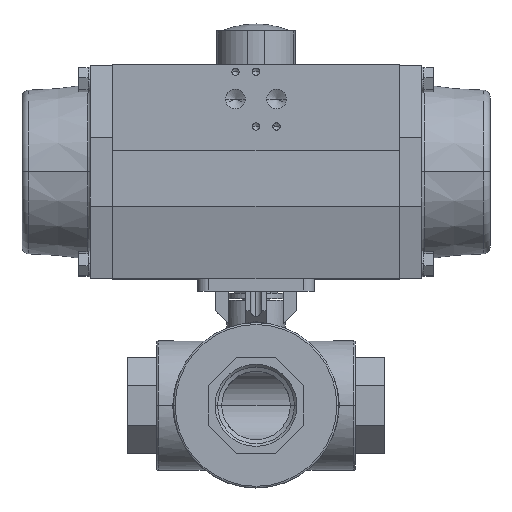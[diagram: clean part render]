
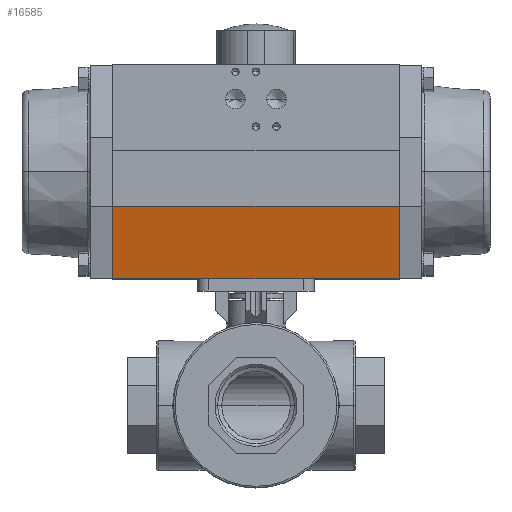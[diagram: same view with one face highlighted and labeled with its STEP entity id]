
A CAD part, top view. The second image highlights one B-rep face of the part: STEP entity #16585.
In plain terms, the highlighted planar face has unit normal (0, -0.229, 0.973) as drawn and (0.973, -0.229, 0) by its records, which use the part's own axes.
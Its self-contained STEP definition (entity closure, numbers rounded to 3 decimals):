
#1008 = EDGE_CURVE ( 'NONE', #17058, #10295, #19009, .T. ) ;
#1588 = CARTESIAN_POINT ( 'NONE',  ( 45., -62.5, -83.75 ) ) ;
#3345 = VECTOR ( 'NONE', #12577, 1000. ) ;
#3450 = EDGE_CURVE ( 'NONE', #14644, #17058, #11070, .T. ) ;
#3687 = DIRECTION ( 'NONE',  ( 0., 0., 1. ) ) ;
#3856 = DIRECTION ( 'NONE',  ( 0.973, -0.229, 0. ) ) ;
#4157 = VECTOR ( 'NONE', #3687, 1000. ) ;
#4491 = EDGE_CURVE ( 'NONE', #9870, #10295, #13620, .T. ) ;
#4925 = CARTESIAN_POINT ( 'NONE',  ( 55., -20., -83.75 ) ) ;
#5399 = CARTESIAN_POINT ( 'NONE',  ( 45., -62.5, -83.75 ) ) ;
#5697 = CARTESIAN_POINT ( 'NONE',  ( 45., -62.5, 83.75 ) ) ;
#5800 = VECTOR ( 'NONE', #14834, 1000. ) ;
#6130 = DIRECTION ( 'NONE',  ( 0., 0., 1. ) ) ;
#7704 = LINE ( 'NONE', #1588, #18543 ) ;
#7951 = ORIENTED_EDGE ( 'NONE', *, *, #4491, .F. ) ;
#8110 = ORIENTED_EDGE ( 'NONE', *, *, #3450, .T. ) ;
#8139 = ORIENTED_EDGE ( 'NONE', *, *, #12519, .F. ) ;
#9870 = VERTEX_POINT ( 'NONE', #5697 ) ;
#10295 = VERTEX_POINT ( 'NONE', #11558 ) ;
#11004 = CARTESIAN_POINT ( 'NONE',  ( 45., -62.5, -83.75 ) ) ;
#11070 = LINE ( 'NONE', #14369, #5800 ) ;
#11558 = CARTESIAN_POINT ( 'NONE',  ( 55., -20., 83.75 ) ) ;
#12519 = EDGE_CURVE ( 'NONE', #14644, #9870, #7704, .T. ) ;
#12577 = DIRECTION ( 'NONE',  ( 0.229, 0.973, 0. ) ) ;
#13018 = PLANE ( 'NONE',  #15914 ) ;
#13620 = LINE ( 'NONE', #18696, #3345 ) ;
#14320 = CARTESIAN_POINT ( 'NONE',  ( 55., -20., -83.75 ) ) ;
#14369 = CARTESIAN_POINT ( 'NONE',  ( 45., -62.5, -83.75 ) ) ;
#14644 = VERTEX_POINT ( 'NONE', #11004 ) ;
#14834 = DIRECTION ( 'NONE',  ( 0.229, 0.973, 0. ) ) ;
#15914 = AXIS2_PLACEMENT_3D ( 'NONE', #5399, #3856, #16119 ) ;
#16119 = DIRECTION ( 'NONE',  ( 0.229, 0.973, 0. ) ) ;
#16275 = EDGE_LOOP ( 'NONE', ( #17494, #7951, #8139, #8110 ) ) ;
#16585 = ADVANCED_FACE ( 'NONE', ( #19697 ), #13018, .T. ) ;
#17058 = VERTEX_POINT ( 'NONE', #4925 ) ;
#17494 = ORIENTED_EDGE ( 'NONE', *, *, #1008, .T. ) ;
#18543 = VECTOR ( 'NONE', #6130, 1000. ) ;
#18696 = CARTESIAN_POINT ( 'NONE',  ( 45., -62.5, 83.75 ) ) ;
#19009 = LINE ( 'NONE', #14320, #4157 ) ;
#19697 = FACE_OUTER_BOUND ( 'NONE', #16275, .T. ) ;
